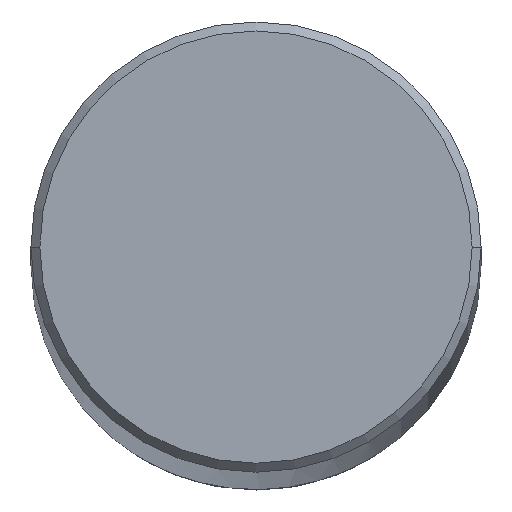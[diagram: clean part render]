
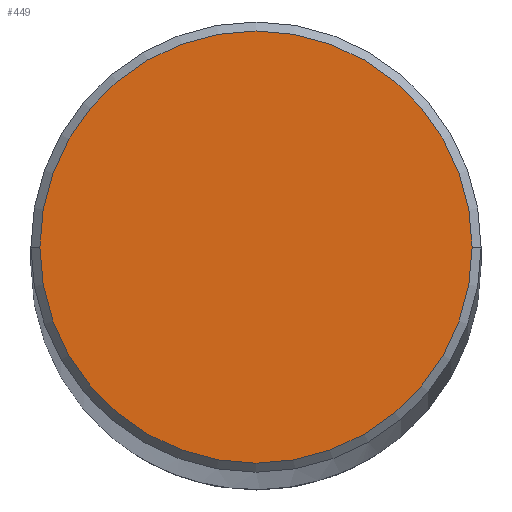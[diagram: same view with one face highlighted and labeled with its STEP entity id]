
A CAD part, top view. The second image highlights one B-rep face of the part: STEP entity #449.
In plain terms, the highlighted planar face has unit normal (0, 0, 1).
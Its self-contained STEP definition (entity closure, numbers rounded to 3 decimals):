
#194 = VERTEX_POINT ( 'NONE', #415 ) ;
#223 = DIRECTION ( 'NONE',  ( 0., 0., 1. ) ) ;
#261 = CIRCLE ( 'NONE', #316, 12. ) ;
#307 = CIRCLE ( 'NONE', #842, 12. ) ;
#310 = PLANE ( 'NONE',  #926 ) ;
#316 = AXIS2_PLACEMENT_3D ( 'NONE', #862, #495, #888 ) ;
#415 = CARTESIAN_POINT ( 'NONE',  ( -12., 0., 0. ) ) ;
#449 = ADVANCED_FACE ( 'NONE', ( #767 ), #310, .T. ) ;
#483 = DIRECTION ( 'NONE',  ( 1., 0., 0. ) ) ;
#495 = DIRECTION ( 'NONE',  ( 0., 0., 1. ) ) ;
#525 = ORIENTED_EDGE ( 'NONE', *, *, #870, .T. ) ;
#569 = CARTESIAN_POINT ( 'NONE',  ( 0., 0., 0. ) ) ;
#713 = VERTEX_POINT ( 'NONE', #828 ) ;
#745 = EDGE_LOOP ( 'NONE', ( #956, #525 ) ) ;
#767 = FACE_OUTER_BOUND ( 'NONE', #745, .T. ) ;
#828 = CARTESIAN_POINT ( 'NONE',  ( 12., 0., 0. ) ) ;
#842 = AXIS2_PLACEMENT_3D ( 'NONE', #569, #935, #483 ) ;
#862 = CARTESIAN_POINT ( 'NONE',  ( 0., 0., 0. ) ) ;
#870 = EDGE_CURVE ( 'NONE', #713, #194, #261, .T. ) ;
#888 = DIRECTION ( 'NONE',  ( 1., 0., 0. ) ) ;
#926 = AXIS2_PLACEMENT_3D ( 'NONE', #1043, #223, #953 ) ;
#935 = DIRECTION ( 'NONE',  ( 0., 0., 1. ) ) ;
#953 = DIRECTION ( 'NONE',  ( 1., 0., 0. ) ) ;
#956 = ORIENTED_EDGE ( 'NONE', *, *, #1052, .T. ) ;
#1043 = CARTESIAN_POINT ( 'NONE',  ( 0., 12.5, 0. ) ) ;
#1052 = EDGE_CURVE ( 'NONE', #194, #713, #307, .T. ) ;
